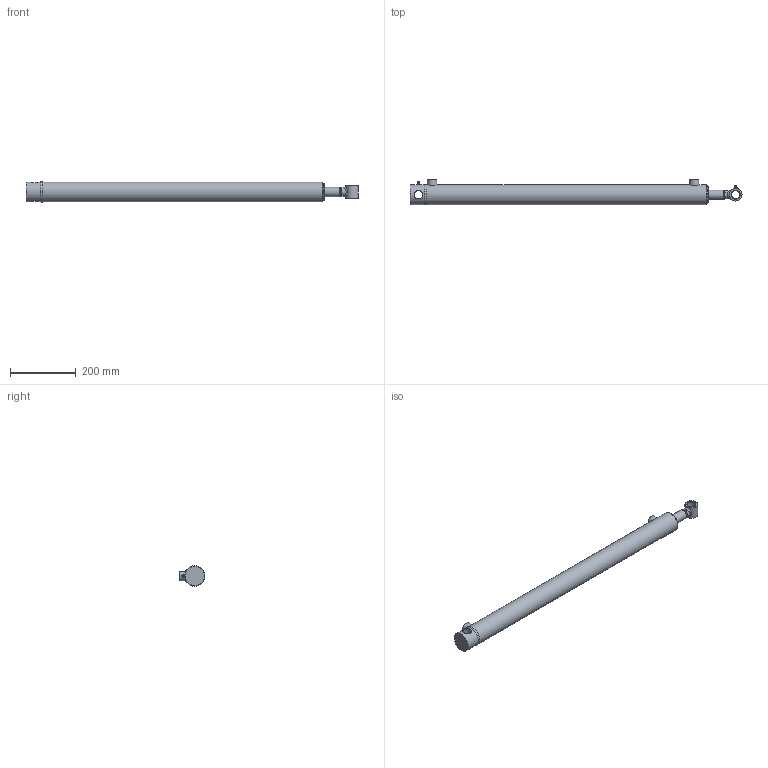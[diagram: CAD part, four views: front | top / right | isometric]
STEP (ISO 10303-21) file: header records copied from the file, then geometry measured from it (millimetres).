
FILE_DESCRIPTION(/* description */ ('Ø2.00 X 30.00 DA'),/* implementation_level */ '2;1');
FILE_NAME(/* name */ 'T:\Aces\Jobs\1df3968a02f746eca771e46f42570e02\result.stp',/* time_stamp */ '2022-10-05T20:33:28+00:00',/* author */ (''),/* organization */ ('PRINCE MANUFACTURING'),/* preprocessor_version */ 'ST-DEVELOPER v18.1',/* originating_system */ 'Autodesk Inventor 2022',/* authorisation */ '');
FILE_SCHEMA (('AUTOMOTIVE_DESIGN { 1 0 10303 214 3 1 1 }'));
Length unit declared in the file: inch
Products named in the file (21): PC2030011A00-380XYXA; 0611-XYSF000-33600; 0511-T-33600; 161100184; 200015602; 06Weld1_C360; 0711-P-075; 220000208; 0811-G-113; 230025102; 230025002; 240000018; 240061326; 240000326; 0205A-FAW0-35800XA; 0105A-FAW0-35800; 210400807; 02Weld_C360; 240037071; 250001216; 270010020
Assembly tree (22 placements, depth 3):
  PC2030011A00-380XYXA
    0611-XYSF000-33600
      0511-T-33600
      161100184
      200015602  x2
      06Weld1_C360
    0711-P-075
    220000208
    0811-G-113
    230025102
    230025002
    240000018
    240061326
    240000326
    0205A-FAW0-35800XA
      0105A-FAW0-35800
      210400807
      02Weld_C360
    240037071
    250001216
    270010020  x2
Bounding box: 1009.65 x 78.61 x 61.85 mm (x, y, z)
Volume: 1541013.6 mm3; surface area: 474660.6 mm2
Topology: 24 solids, 24 shells, 404 faces, 950 edges, 616 vertices
Faces by surface type: plane 104, torus 81, cylinder 77, cone 76, bspline 62, sphere 4
Full cylindrical faces by diameter (mm): 2.143 x4, 5.359 x2, 6.35 x2, 9.525 x2, 17.323 x3, 18.237 x1, 18.288 x1, 18.999 x1, 19.126 x1, 21.615 x1, 25.4 x1, 25.781 x2, 28.575 x4, 28.651 x2, 29.21 x2, 31.598 x1, 34.29 x1, 34.9 x2, 34.95 x1, 35.56 x1, 38.1 x2, 41.377 x2, 42.113 x2, 47.231 x2, 47.371 x1, 47.396 x4, 50.186 x2, 50.571 x6, 50.648 x1, 50.8 x4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
Entity records: 27132 total; most frequent: CARTESIAN_POINT 17850, DIRECTION 1756, ORIENTED_EDGE 1698, EDGE_CURVE 849, AXIS2_PLACEMENT_3D 777, VERTEX_POINT 555, CIRCLE 432, EDGE_LOOP 426
